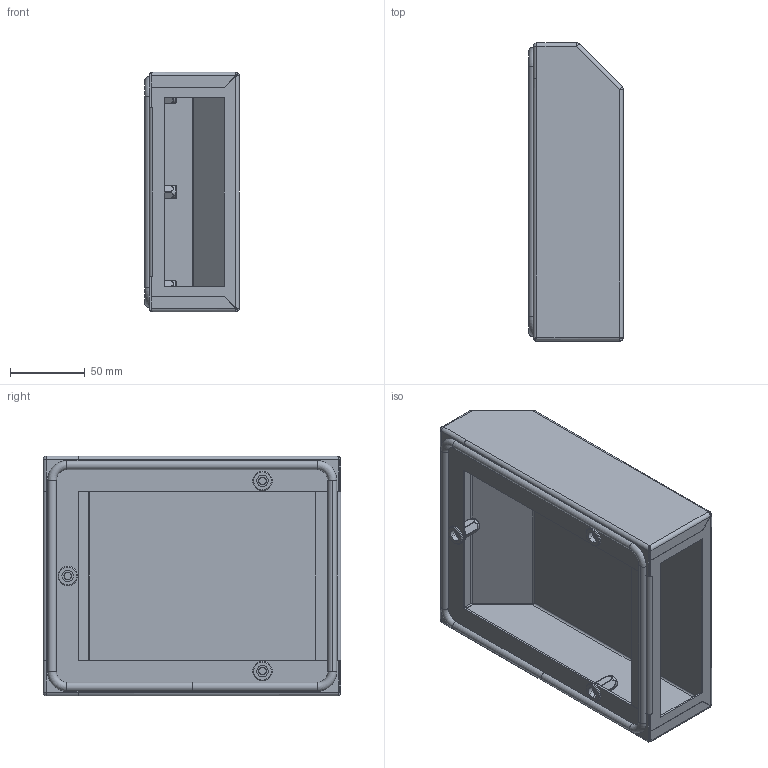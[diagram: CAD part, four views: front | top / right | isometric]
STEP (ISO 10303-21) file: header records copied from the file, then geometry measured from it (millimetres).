
FILE_DESCRIPTION (( 'STEP AP214' ), '1' );
FILE_NAME ('R 08 FA S 01.000 ﾑﾁ ﾊ鮻 鈞隆 蓁 粢炅齏.STEP', '2022-06-17T08:13:03', ( '' ), ( '' ), 'SwSTEP 2.0', 'SolidWorks 2018', '' );
FILE_SCHEMA (( 'AUTOMOTIVE_DESIGN' ));
Length unit declared in the file: millimetre
Products named in the file (4): Çàêëåïêà íåðæ. âûòÿæíàÿ ðåçüáîâàÿ øåñòèãðàííàÿ çàêðûòàÿ Ì6_1,4; 逄鋋襡樇鳺 鼨錒膰膼碭嬅R 08 FA S; R 12 FA S 00.001 ﾊ鮻 鈞隆 蓁 粢炅齏_R 08 FA S 00.001 EPLAN; R 08 FA S 01.000 ﾑﾁ ﾊ鮻 鈞隆 蓁 粢炅齏
Assembly tree (5 placements, depth 2):
  R 08 FA S 01.000 ﾑﾁ ﾊ鮻 鈞隆 蓁 粢炅齏
    R 12 FA S 00.001 ﾊ鮻 鈞隆 蓁 粢炅齏_R 08 FA S 00.001 EPLAN
    逄鋋襡樇鳺 鼨錒膰膼碭嬅R 08 FA S
    Çàêëåïêà íåðæ. âûòÿæíàÿ ðåçüáîâàÿ øåñòèãðàííàÿ çàêðûòàÿ Ì6_1,4  x3
Bounding box: 63.12 x 198.92 x 160 mm (x, y, z)
Volume: 105630 mm3; surface area: 169015.9 mm2
Topology: 5 solids, 5 shells, 465 faces, 1067 edges, 618 vertices
Faces by surface type: plane 147, bspline 116, cylinder 114, torus 52, sphere 24, cone 12
Entity records: 9208 total; most frequent: CARTESIAN_POINT 3580, ORIENTED_EDGE 1166, DIRECTION 1100, EDGE_CURVE 583, AXIS2_PLACEMENT_3D 396, VERTEX_POINT 338, VECTOR 308, LINE 308
